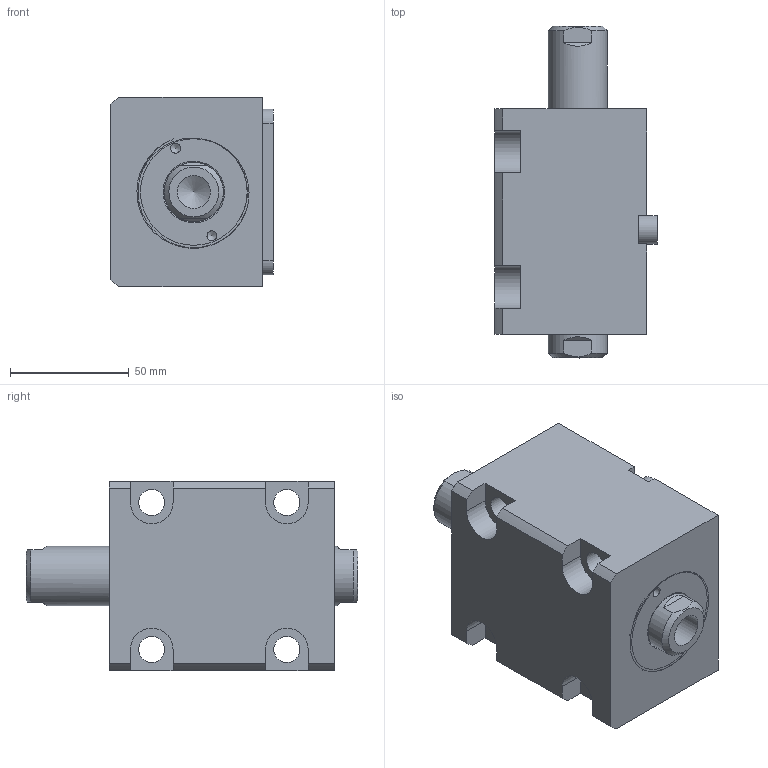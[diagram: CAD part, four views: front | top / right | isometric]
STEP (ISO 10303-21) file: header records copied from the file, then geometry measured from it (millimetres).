
FILE_DESCRIPTION(/* description */ (''),/* implementation_level */ '2;1');
FILE_NAME(/* name */ 'CHTB-lwm40x25n.stp',/* time_stamp */ '2022-04-29T17:35:20+08:00',/* author */ (''),/* organization */ (''),/* preprocessor_version */ 'ST-DEVELOPER v16.7',/* originating_system */ 'SIEMENS PLM Software NX 12.0',/* authorisation */ '');
FILE_SCHEMA (('AUTOMOTIVE_DESIGN { 1 0 10303 214 3 1 1 1 }'));
Length unit declared in the file: millimetre
Products named in the file (1): CHTB-lwm40x25n
Bounding box: 68.5 x 140 x 80 mm (x, y, z)
Volume: 448361.8 mm3; surface area: 85905 mm2
Topology: 4 solids, 4 shells, 509 faces, 1404 edges, 938 vertices
Faces by surface type: plane 345, extrusion 100, cylinder 41, torus 10, cone 7, bspline 6
Full cylindrical faces by diameter (mm): 4.2 x2, 5 x2, 11 x4, 12 x2, 14 x2, 25 x4, 29 x1, 34 x2, 40 x4, 45 x1
Entity records: 22528 total; most frequent: CARTESIAN_POINT 7374, ORIENTED_EDGE 2682, DIRECTION 2099, EDGE_CURVE 1341, VECTOR 1105, LINE 1005, VERTEX_POINT 920, EDGE_LOOP 601
